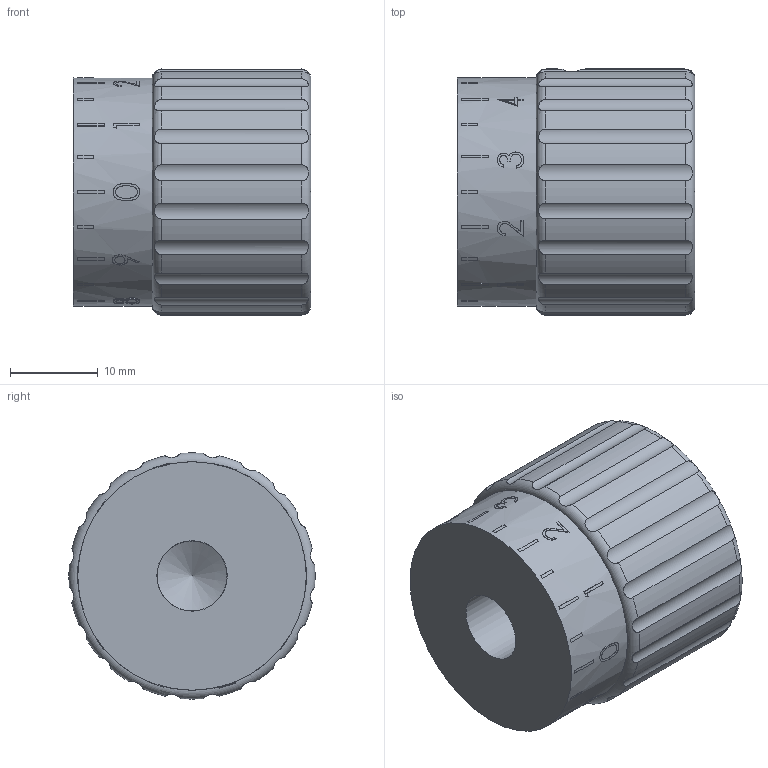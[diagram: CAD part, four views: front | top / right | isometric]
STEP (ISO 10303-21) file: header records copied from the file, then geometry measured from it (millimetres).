
FILE_DESCRIPTION( ( 'STEP AP203' ), '1' );
FILE_NAME( 'C:/Temp/Ganter_Step_05_03_2020/data/1_4/gn_436_1/gn_436_1_s/Stainless Steel-Control knob GN 436.1-28-B8-S-MT.stp', '2020-03-05T10:48:48', ( 'License CC BY-ND 4.0' ), ( 'CADENAS' ), ' ', 'PARTsolutions', ' ' );
FILE_SCHEMA( ( 'CONFIG_CONTROL_DESIGN' ) );
Length unit declared in the file: millimetre
Products named in the file (1): _Stainless Steel-Control knob GN 436.1-28-B8-S-MT
Bounding box: 27 x 27.99 x 27.99 mm (x, y, z)
Volume: 14507.1 mm3; surface area: 4132.7 mm2
Topology: 1 solids, 1 shells, 308 faces, 802 edges, 534 vertices
Faces by surface type: cylinder 155, plane 148, cone 3, torus 2
Full cylindrical faces by diameter (mm): 3.242 x2, 7.96 x1, 8 x1, 26 x1
Entity records: 10370 total; most frequent: CARTESIAN_POINT 2845, ORIENTED_EDGE 1566, DIRECTION 1522, EDGE_CURVE 783, AXIS2_PLACEMENT_3D 558, VERTEX_POINT 527, LINE 406, VECTOR 406
